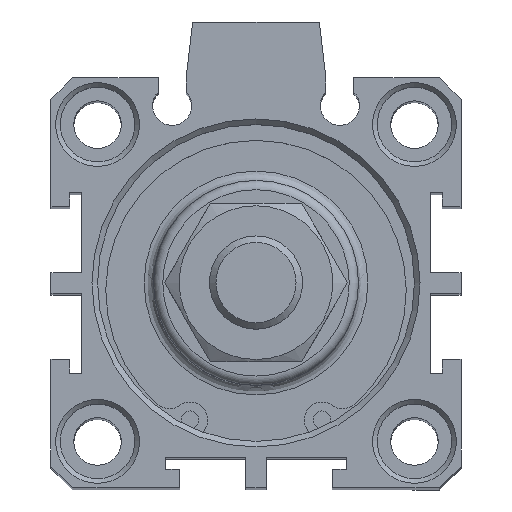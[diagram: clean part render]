
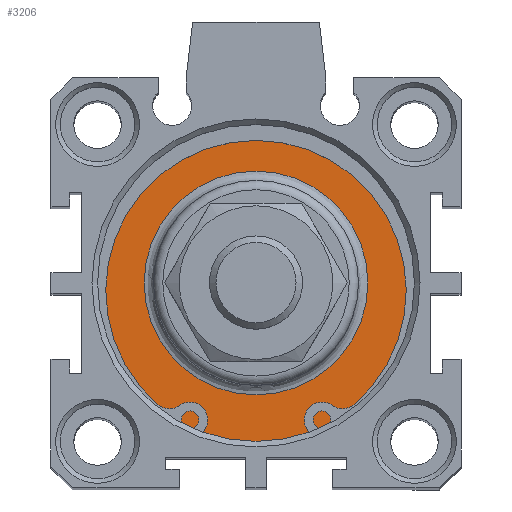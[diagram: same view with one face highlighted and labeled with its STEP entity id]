
A CAD part, top view. The second image highlights one B-rep face of the part: STEP entity #3206.
In plain terms, the highlighted planar face has unit normal (0, 0, 1).
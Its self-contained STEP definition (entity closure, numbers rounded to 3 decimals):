
#3155=CARTESIAN_POINT('',(2.273,12.598,120.8));
#3156=VERTEX_POINT('',#3155);
#3157=CARTESIAN_POINT('',(2.273,0.598,120.8));
#3158=DIRECTION('',(0.0,0.0,1.0));
#3159=DIRECTION('',(0.0,-1.0,0.0));
#3160=AXIS2_PLACEMENT_3D('',#3157,#3158,#3159);
#3161=CIRCLE('',#3160,12.);
#3162=EDGE_CURVE('',#3156,#3156,#3161,.T.);
#3187=CARTESIAN_POINT('',(2.273,14.598,120.8));
#3188=DIRECTION('',(0.0,0.0,1.0));
#3189=DIRECTION('',(1.0,0.0,0.0));
#3190=AXIS2_PLACEMENT_3D('',#3187,#3188,#3189);
#3191=PLANE('',#3190);
#3192=CARTESIAN_POINT('',(2.273,17.598,120.8));
#3193=VERTEX_POINT('',#3192);
#3194=CARTESIAN_POINT('',(2.273,0.598,120.8));
#3195=DIRECTION('',(0.0,0.0,-1.0));
#3196=DIRECTION('',(0.0,1.0,0.0));
#3197=AXIS2_PLACEMENT_3D('',#3194,#3195,#3196);
#3198=CIRCLE('',#3197,17.);
#3199=EDGE_CURVE('',#3193,#3193,#3198,.T.);
#3200=ORIENTED_EDGE('',*,*,#3199,.F.);
#3201=EDGE_LOOP('',(#3200));
#3202=FACE_OUTER_BOUND('',#3201,.T.);
#3203=ORIENTED_EDGE('',*,*,#3162,.F.);
#3204=EDGE_LOOP('',(#3203));
#3205=FACE_BOUND('',#3204,.T.);
#3206=ADVANCED_FACE('',(#3202,#3205),#3191,.T.);
